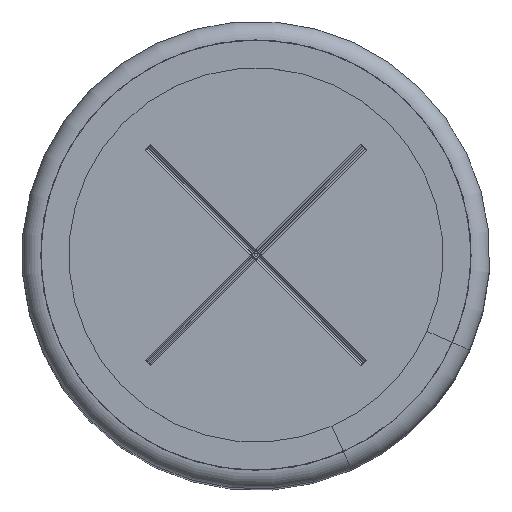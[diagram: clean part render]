
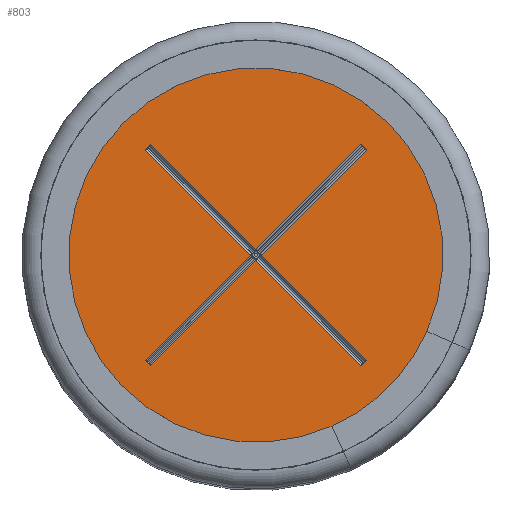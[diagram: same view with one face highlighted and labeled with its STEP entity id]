
A CAD part, top view. The second image highlights one B-rep face of the part: STEP entity #803.
In plain terms, the highlighted planar face has unit normal (0, 0, 1).
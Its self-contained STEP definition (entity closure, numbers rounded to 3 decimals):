
#176=FACE_BOUND('',#1284,.T.);
#177=FACE_BOUND('',#1285,.T.);
#687=PLANE('',#4047);
#803=ADVANCED_FACE('',(#176,#177),#687,.T.);
#1284=EDGE_LOOP('',(#2130));
#1285=EDGE_LOOP('',(#2131,#2132,#2133,#2134,#2135,#2136,#2137,#2138,#2139,
#2140,#2141,#2142));
#1517=LINE('',#5710,#1771);
#1518=LINE('',#5713,#1772);
#1519=LINE('',#5715,#1773);
#1520=LINE('',#5717,#1774);
#1521=LINE('',#5719,#1775);
#1522=LINE('',#5721,#1776);
#1523=LINE('',#5723,#1777);
#1524=LINE('',#5725,#1778);
#1525=LINE('',#5727,#1779);
#1526=LINE('',#5729,#1780);
#1527=LINE('',#5731,#1781);
#1528=LINE('',#5733,#1782);
#1771=VECTOR('',#4590,1.);
#1772=VECTOR('',#4591,1.);
#1773=VECTOR('',#4592,1.);
#1774=VECTOR('',#4593,1.);
#1775=VECTOR('',#4594,1.);
#1776=VECTOR('',#4595,1.);
#1777=VECTOR('',#4596,1.);
#1778=VECTOR('',#4597,1.);
#1779=VECTOR('',#4598,1.);
#1780=VECTOR('',#4599,1.);
#1781=VECTOR('',#4600,1.);
#1782=VECTOR('',#4601,1.);
#2130=ORIENTED_EDGE('',*,*,#3368,.F.);
#2131=ORIENTED_EDGE('',*,*,#3369,.T.);
#2132=ORIENTED_EDGE('',*,*,#3370,.T.);
#2133=ORIENTED_EDGE('',*,*,#3371,.T.);
#2134=ORIENTED_EDGE('',*,*,#3372,.F.);
#2135=ORIENTED_EDGE('',*,*,#3373,.T.);
#2136=ORIENTED_EDGE('',*,*,#3374,.T.);
#2137=ORIENTED_EDGE('',*,*,#3375,.F.);
#2138=ORIENTED_EDGE('',*,*,#3376,.T.);
#2139=ORIENTED_EDGE('',*,*,#3377,.T.);
#2140=ORIENTED_EDGE('',*,*,#3378,.T.);
#2141=ORIENTED_EDGE('',*,*,#3379,.T.);
#2142=ORIENTED_EDGE('',*,*,#3380,.T.);
#3038=VERTEX_POINT('',#5709);
#3039=VERTEX_POINT('',#5711);
#3040=VERTEX_POINT('',#5712);
#3041=VERTEX_POINT('',#5714);
#3042=VERTEX_POINT('',#5716);
#3043=VERTEX_POINT('',#5718);
#3044=VERTEX_POINT('',#5720);
#3045=VERTEX_POINT('',#5722);
#3046=VERTEX_POINT('',#5724);
#3047=VERTEX_POINT('',#5726);
#3048=VERTEX_POINT('',#5728);
#3049=VERTEX_POINT('',#5730);
#3050=VERTEX_POINT('',#5732);
#3368=EDGE_CURVE('',#3038,#3038,#3826,.T.);
#3369=EDGE_CURVE('',#3039,#3040,#1517,.T.);
#3370=EDGE_CURVE('',#3040,#3041,#1518,.T.);
#3371=EDGE_CURVE('',#3041,#3042,#1519,.T.);
#3372=EDGE_CURVE('',#3043,#3042,#1520,.T.);
#3373=EDGE_CURVE('',#3043,#3044,#1521,.T.);
#3374=EDGE_CURVE('',#3044,#3045,#1522,.T.);
#3375=EDGE_CURVE('',#3046,#3045,#1523,.T.);
#3376=EDGE_CURVE('',#3046,#3047,#1524,.T.);
#3377=EDGE_CURVE('',#3047,#3048,#1525,.T.);
#3378=EDGE_CURVE('',#3048,#3049,#1526,.T.);
#3379=EDGE_CURVE('',#3049,#3050,#1527,.T.);
#3380=EDGE_CURVE('',#3050,#3039,#1528,.T.);
#3826=CIRCLE('',#4046,11.5);
#4046=AXIS2_PLACEMENT_3D('',#5708,#4588,#4589);
#4047=AXIS2_PLACEMENT_3D('',#5734,#4602,#4603);
#4588=DIRECTION('',(0.,0.,-1.));
#4589=DIRECTION('',(-1.,0.,0.));
#4590=DIRECTION('',(0.707,-0.707,0.));
#4591=DIRECTION('',(-0.707,-0.707,0.));
#4592=DIRECTION('',(0.707,-0.707,0.));
#4593=DIRECTION('',(0.707,0.707,0.));
#4594=DIRECTION('',(-0.707,0.707,0.));
#4595=DIRECTION('',(-0.707,-0.707,0.));
#4596=DIRECTION('',(0.707,-0.707,0.));
#4597=DIRECTION('',(0.707,0.707,0.));
#4598=DIRECTION('',(-0.707,0.707,0.));
#4599=DIRECTION('',(0.707,0.707,0.));
#4600=DIRECTION('',(0.707,-0.707,0.));
#4601=DIRECTION('',(0.707,0.707,0.));
#4602=DIRECTION('',(0.,0.,1.));
#4603=DIRECTION('',(1.,0.,0.));
#5708=CARTESIAN_POINT('',(0.,0.,49.8));
#5709=CARTESIAN_POINT('',(-11.5,0.,49.8));
#5710=CARTESIAN_POINT('',(5.657,5.869,49.8));
#5711=CARTESIAN_POINT('',(5.613,5.913,49.8));
#5712=CARTESIAN_POINT('',(5.913,5.613,49.8));
#5713=CARTESIAN_POINT('',(-5.6,-5.9,49.8));
#5714=CARTESIAN_POINT('',(0.3,0.,49.8));
#5715=CARTESIAN_POINT('',(-5.6,5.9,49.8));
#5716=CARTESIAN_POINT('',(5.913,-5.613,49.8));
#5717=CARTESIAN_POINT('',(5.869,-5.657,49.8));
#5718=CARTESIAN_POINT('',(5.613,-5.913,49.8));
#5719=CARTESIAN_POINT('',(-5.9,5.6,49.8));
#5720=CARTESIAN_POINT('',(0.,-0.3,49.8));
#5721=CARTESIAN_POINT('',(-5.6,-5.9,49.8));
#5722=CARTESIAN_POINT('',(-5.613,-5.913,49.8));
#5723=CARTESIAN_POINT('',(-5.869,-5.657,49.8));
#5724=CARTESIAN_POINT('',(-5.913,-5.613,49.8));
#5725=CARTESIAN_POINT('',(-5.9,-5.6,49.8));
#5726=CARTESIAN_POINT('',(-0.3,0.,49.8));
#5727=CARTESIAN_POINT('',(-5.9,5.6,49.8));
#5728=CARTESIAN_POINT('',(-5.913,5.613,49.8));
#5729=CARTESIAN_POINT('',(-5.657,5.869,49.8));
#5730=CARTESIAN_POINT('',(-5.613,5.913,49.8));
#5731=CARTESIAN_POINT('',(-5.6,5.9,49.8));
#5732=CARTESIAN_POINT('',(0.,0.3,49.8));
#5733=CARTESIAN_POINT('',(-5.9,-5.6,49.8));
#5734=CARTESIAN_POINT('',(-11.5,0.,49.8));
